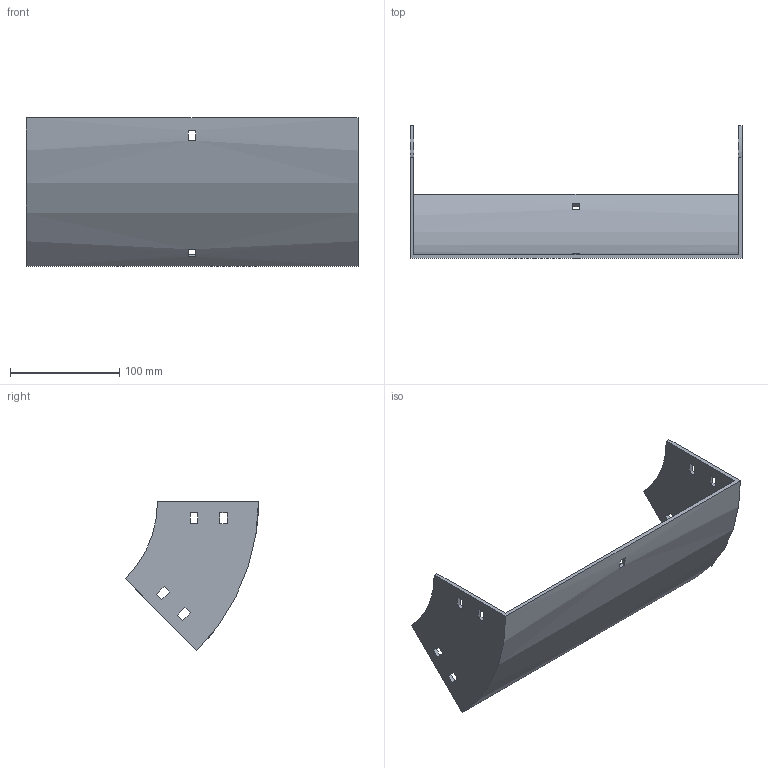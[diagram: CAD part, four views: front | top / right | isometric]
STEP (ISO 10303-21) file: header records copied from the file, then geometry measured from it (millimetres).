
FILE_DESCRIPTION (( 'STEP AP214' ), '1' );
FILE_NAME ('31B1I300.step', '2025-02-21T09:48:14', ( '' ), ( '' ), 'SwSTEP 2.0', 'SolidWorks 2023', '' );
FILE_SCHEMA (( 'AUTOMOTIVE_DESIGN' ));
Length unit declared in the file: millimetre
Products named in the file (1): 31B1I300
Bounding box: 304 x 121.79 x 136.12 mm (x, y, z)
Volume: 227736.1 mm3; surface area: 135238.1 mm2
Topology: 1 solids, 1 shells, 50 faces, 144 edges, 96 vertices
Faces by surface type: plane 46, cylinder 4
Entity records: 1687 total; most frequent: CARTESIAN_POINT 291, ORIENTED_EDGE 288, DIRECTION 262, EDGE_CURVE 144, VECTOR 128, LINE 128, VERTEX_POINT 96, EDGE_LOOP 70
